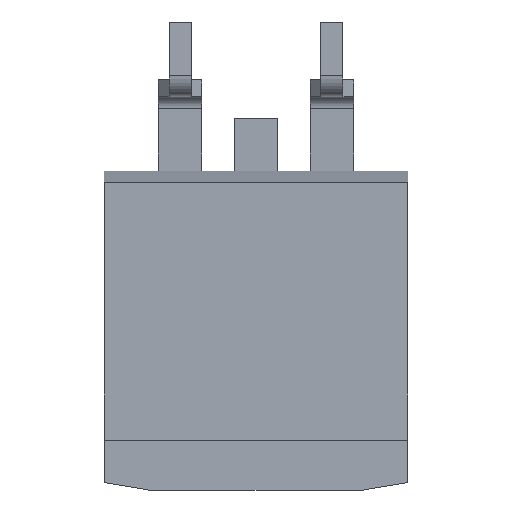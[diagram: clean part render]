
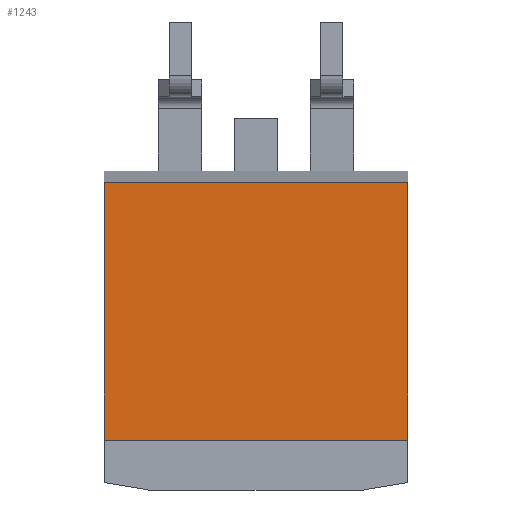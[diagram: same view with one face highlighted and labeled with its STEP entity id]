
A CAD part, front view. The second image highlights one B-rep face of the part: STEP entity #1243.
In plain terms, the highlighted planar face has unit normal (0, -1, 0).
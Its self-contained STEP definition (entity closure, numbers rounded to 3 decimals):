
#72 = CARTESIAN_POINT ( 'NONE',  ( 5.08, 0., 4.138 ) ) ;
#127 = ORIENTED_EDGE ( 'NONE', *, *, #850, .F. ) ;
#146 = DIRECTION ( 'NONE',  ( 1., 0., 0. ) ) ;
#150 = LINE ( 'NONE', #162, #1135 ) ;
#162 = CARTESIAN_POINT ( 'NONE',  ( -5.08, 0., -4.508 ) ) ;
#167 = VERTEX_POINT ( 'NONE', #72 ) ;
#205 = LINE ( 'NONE', #989, #1778 ) ;
#303 = DIRECTION ( 'NONE',  ( 0., 0., -1. ) ) ;
#310 = VECTOR ( 'NONE', #146, 1000. ) ;
#387 = ORIENTED_EDGE ( 'NONE', *, *, #1745, .F. ) ;
#575 = FACE_OUTER_BOUND ( 'NONE', #1018, .T. ) ;
#638 = CARTESIAN_POINT ( 'NONE',  ( -5.08, 0., -4.508 ) ) ;
#724 = EDGE_CURVE ( 'NONE', #1634, #1483, #150, .T. ) ;
#748 = LINE ( 'NONE', #1044, #310 ) ;
#757 = VERTEX_POINT ( 'NONE', #1975 ) ;
#826 = EDGE_CURVE ( 'NONE', #167, #757, #1067, .T. ) ;
#850 = EDGE_CURVE ( 'NONE', #1483, #167, #748, .T. ) ;
#971 = DIRECTION ( 'NONE',  ( -1., 0., 0. ) ) ;
#989 = CARTESIAN_POINT ( 'NONE',  ( -5.08, 0., -4.508 ) ) ;
#1018 = EDGE_LOOP ( 'NONE', ( #1217, #127, #1307, #387 ) ) ;
#1044 = CARTESIAN_POINT ( 'NONE',  ( -5.08, 0., 4.138 ) ) ;
#1061 = DIRECTION ( 'NONE',  ( 0., 0., 1. ) ) ;
#1067 = LINE ( 'NONE', #1674, #1196 ) ;
#1135 = VECTOR ( 'NONE', #1061, 1000. ) ;
#1196 = VECTOR ( 'NONE', #303, 1000. ) ;
#1206 = DIRECTION ( 'NONE',  ( 0., 1., 0. ) ) ;
#1217 = ORIENTED_EDGE ( 'NONE', *, *, #826, .F. ) ;
#1243 = ADVANCED_FACE ( 'NONE', ( #575 ), #1353, .F. ) ;
#1307 = ORIENTED_EDGE ( 'NONE', *, *, #724, .F. ) ;
#1353 = PLANE ( 'NONE',  #1423 ) ;
#1423 = AXIS2_PLACEMENT_3D ( 'NONE', #1959, #1206, #1789 ) ;
#1472 = CARTESIAN_POINT ( 'NONE',  ( -5.08, 0., 4.138 ) ) ;
#1483 = VERTEX_POINT ( 'NONE', #1472 ) ;
#1634 = VERTEX_POINT ( 'NONE', #638 ) ;
#1674 = CARTESIAN_POINT ( 'NONE',  ( 5.08, 0., -4.508 ) ) ;
#1745 = EDGE_CURVE ( 'NONE', #757, #1634, #205, .T. ) ;
#1778 = VECTOR ( 'NONE', #971, 1000. ) ;
#1789 = DIRECTION ( 'NONE',  ( 0., 0., 1. ) ) ;
#1959 = CARTESIAN_POINT ( 'NONE',  ( 0., 0., 0. ) ) ;
#1975 = CARTESIAN_POINT ( 'NONE',  ( 5.08, 0., -4.508 ) ) ;
